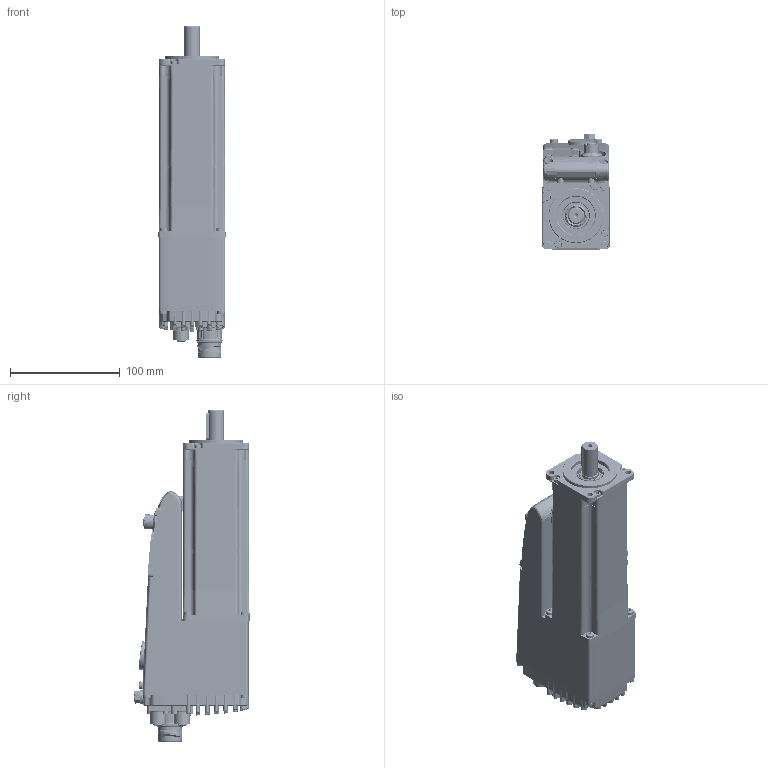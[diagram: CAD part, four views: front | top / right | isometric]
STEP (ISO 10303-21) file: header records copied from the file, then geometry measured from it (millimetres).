
FILE_DESCRIPTION(/* description */ ('Unknown'),/* implementation_level */ '2;1');
FILE_NAME(/* name */ 'DUET60 1,3 A5 1 E 1 (Q0C006)',/* time_stamp */ '2020-11-04T15:32:14+01:00',/* author */ ('Unknown'),/* organization */ ('Unknown'),/* preprocessor_version */ 'ST-DEVELOPER v16.7',/* originating_system */ 'DEX',/* authorisation */ $);
FILE_SCHEMA (('AUTOMOTIVE_DESIGN {1 0 10303 214 3 1 1}'));
Products named in the file (59): DUET60 1,3 A5 1 E 1 (Q0C006); 003251021030; 005123000690; 005123000690_0; 005123000690_1; 005123000690_2; 005123000690_3; 005123000690_4; 005123000690_5; 005123000690_6; 005755000060; 005751000100; 005123000100; 005123000100_0; 005123000100_1; 005123000100_2; 005123000100_3; 005123000100_4; 005123000100_5; 005911000198; 005113000400; 003108002506; 005911000182; 005008000510; 005008000740-oa0; 005008000740-oa1; 005007000200; 005911000200; 003155002056; 005008000744-oa2; 007803003640; 007055000370; 005113000100; 005711000954; 005911003643; MD031601.1.0; 005911000495; 003003199488; 003120003045; 005119001310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
Assembly tree (99 placements, depth 4):
  DUET60 1,3 A5 1 E 1 (Q0C006)
    003251021030
    005123000690
    005123000690_0
    005123000690_1
    005123000690_2
    005123000690_3
    005123000690_4
    005123000690_5
    005123000690_6
    005755000060
    005751000100
    005123000100
    005123000100_0
    005123000100_1
    005123000100_2
    005123000100_3
    005123000100_4
    005123000100_5
    005911000198  x4
    005113000400
    003108002506
    005911000182
    005008000510
    005008000740-oa0
    005008000740-oa1
    005007000200
    005911000200  x4
    003155002056
    005008000744-oa2
    007803003640  x4
    007055000370  x4
    005113000100
    005711000954
    005911003643
    MD031601.1.0
    005911000495  x4
    003003199488
    003120003045
    005119001310
    005119001310_0
    052400000001
      LC431503.0.0
        J_4302729  x2
        J_7601000000
        V_VTCTX3X10(8.8)  x11
        J_7084943121
        MD031604.0.0
        V_RP6
      MD031607.0.0
      MD031608.0.0
      V_VTCTX40X12A  x12
      V_VTCTXK30X8  x5
      MD031609.0.0
      V_V027400610
      169692
      MD081003.2.0
      MD141520.0.0
      CONEC-43-01063
Bounding box: 61.32 x 105.22 x 302.8 mm (x, y, z)
Volume: 451175.4 mm3; surface area: 287815.3 mm2
Topology: 98 solids, 99 shells, 4785 faces, 11948 edges, 7575 vertices
Faces by surface type: plane 2074, cylinder 1243, bspline 564, cone 427, torus 398, sphere 79
Full cylindrical faces by diameter (mm): 0.8 x8, 0.9 x8, 1.1 x8, 1.2 x4, 1.3 x8, 1.4 x8, 1.5 x8, 1.7 x2, 2.2 x5, 2.4 x15, 2.459 x15, 2.5 x25, 2.9 x4, 3 x38, 3.2 x26, 3.242 x1, 3.3 x1, 3.4 x8, 3.5 x18, 4 x14, 4.134 x1, 4.2 x2, 4.5 x6, 5 x7, 5.5 x31, 5.6 x5, 5.65 x4, 6 x22, 6.4 x1, 7 x12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
Entity records: 159752 total; most frequent: CARTESIAN_POINT 48524, ORIENTED_EDGE 18538, DIRECTION 18268, EDGE_CURVE 9269, AXIS2_PLACEMENT_3D 7092, VERTEX_POINT 6226, FACE_BOUND 5109, EDGE_LOOP 5055
